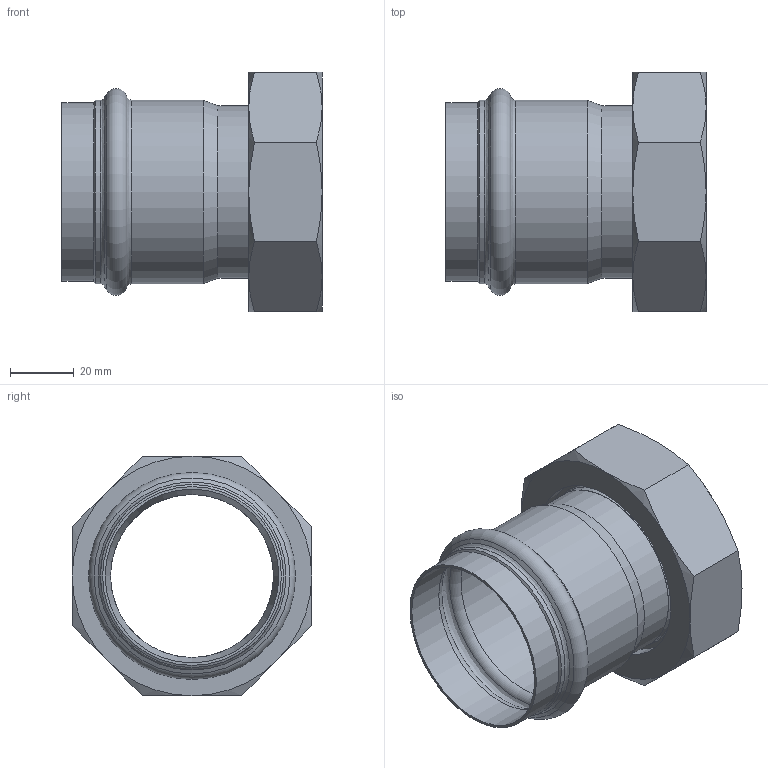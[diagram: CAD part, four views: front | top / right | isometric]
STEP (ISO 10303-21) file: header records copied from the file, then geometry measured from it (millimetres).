
FILE_DESCRIPTION((''),'2;1');
FILE_NAME('G:\Nirosan-Schmiedefeld\Technics\CAD\Bauteile VA\054\69359mms54238(1).stp','2011-01-04T15:32:18',('herberg'),(''),'Autodesk Inventor 2009','Autodesk Inventor 2009','');
FILE_SCHEMA(('AUTOMOTIVE_DESIGN { 1 0 10303 214 1 1 1 1 }'));
Length unit declared in the file: millimetre
Products named in the file (5): 69359mms54238(1); HM_6924354(1); R54238(1); FD_6555_EPDM(0); MS_AM54238(1)
Assembly tree (4 placements, depth 2):
  69359mms54238(1)
    HM_6924354(1)
    R54238(1)
    FD_6555_EPDM(0)
    MS_AM54238(1)
Bounding box: 81.5 x 75 x 75 mm (x, y, z)
Volume: 53085.1 mm3; surface area: 44229 mm2
Topology: 4 solids, 4 shells, 62 faces, 121 edges, 69 vertices
Faces by surface type: cone 23, plane 17, cylinder 12, bspline 7, torus 3
Full cylindrical faces by diameter (mm): 51 x2, 54 x2, 54.35 x2, 55 x1, 55.95 x1, 57.35 x2, 65 x2
Entity records: 1787 total; most frequent: CARTESIAN_POINT 546, DIRECTION 242, ORIENTED_EDGE 186, AXIS2_PLACEMENT_3D 117, EDGE_LOOP 100, EDGE_CURVE 93, VERTEX_POINT 69, FACE_OUTER_BOUND 62
